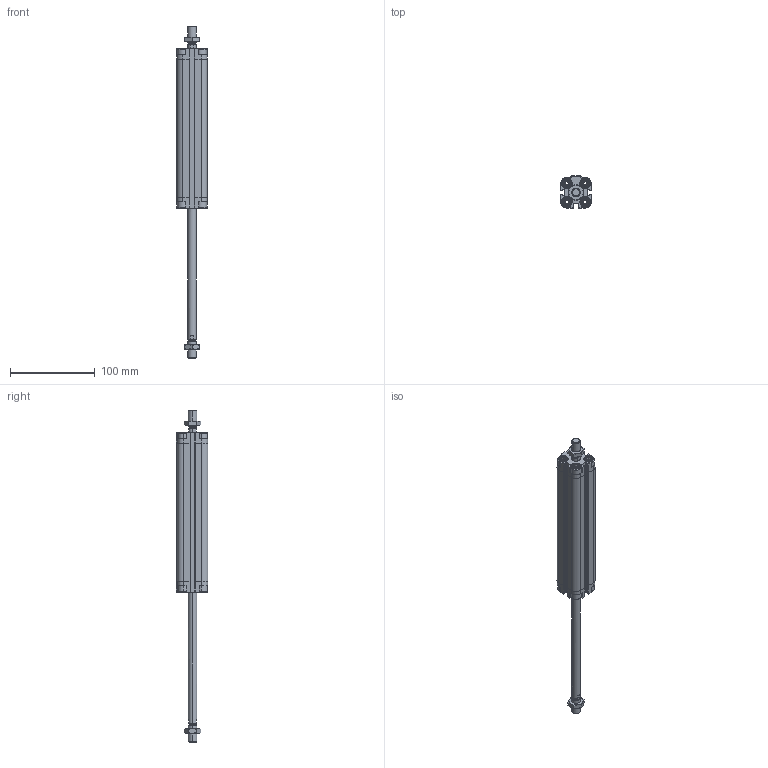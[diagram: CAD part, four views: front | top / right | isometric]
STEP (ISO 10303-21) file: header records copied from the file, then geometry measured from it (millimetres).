
FILE_DESCRIPTION (( 'STEP AP203' ), '1' );
FILE_NAME ('CDVU20-150M-P.STEP', '2020-07-21T15:10:11', ( '' ), ( '' ), 'SwSTEP 2.0', 'SolidWorks 2019', '' );
FILE_SCHEMA (( 'CONFIG_CONTROL_DESIGN' ));
Length unit declared in the file: millimetre
Products named in the file (1): CDVU20-150M-P
Bounding box: 36 x 37.5 x 391 mm (x, y, z)
Volume: 166945.7 mm3; surface area: 80920.8 mm2
Topology: 4 solids, 4 shells, 642 faces, 1674 edges, 1078 vertices
Faces by surface type: plane 374, cylinder 188, cone 64, torus 16
Entity records: 20369 total; most frequent: CARTESIAN_POINT 4535, ORIENTED_EDGE 3340, DIRECTION 3212, EDGE_CURVE 1670, AXIS2_PLACEMENT_3D 1115, VERTEX_POINT 1078, VECTOR 982, LINE 982
